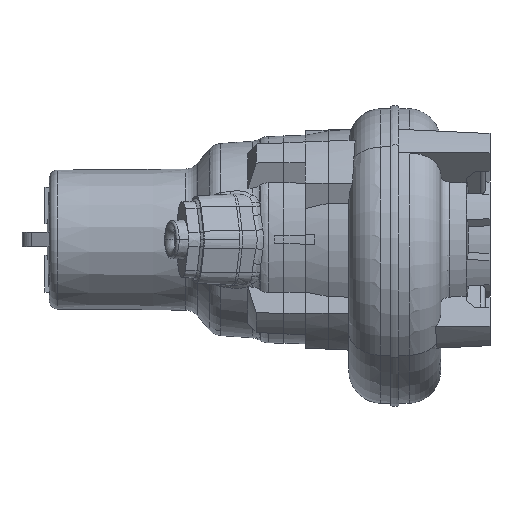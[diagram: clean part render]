
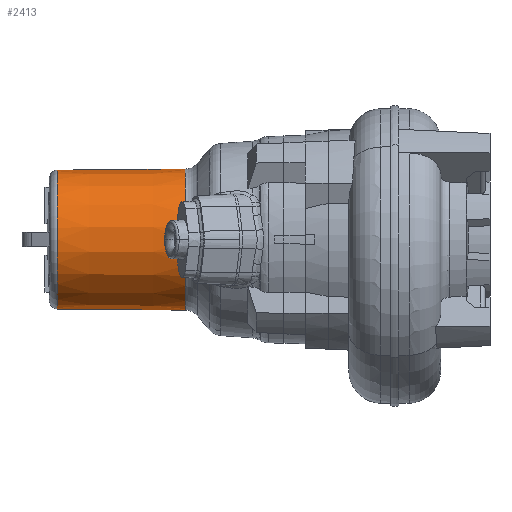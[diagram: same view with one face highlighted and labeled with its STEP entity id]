
A CAD part, left-side view. The second image highlights one B-rep face of the part: STEP entity #2413.
In plain terms, the highlighted conical face has half-angle 0.494 degrees and reference radius 84.5 mm.
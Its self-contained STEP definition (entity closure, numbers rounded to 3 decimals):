
#20 = CARTESIAN_POINT ( 'NONE',  ( -85.897, 123.483, 1.963 ) ) ;
#34 = CIRCLE ( 'NONE', #7975, 84.58 ) ;
#923 = DIRECTION ( 'NONE',  ( 0., 1., 0. ) ) ;
#1108 = AXIS2_PLACEMENT_3D ( 'NONE', #20913, #24912, #26974 ) ;
#1673 = CARTESIAN_POINT ( 'NONE',  ( -85.871, 123.221, -2.923 ) ) ;
#2277 = CIRCLE ( 'NONE', #15054, 85.921 ) ;
#2413 = ADVANCED_FACE ( 'NONE', ( #18559 ), #24038, .T. ) ;
#2439 = VERTEX_POINT ( 'NONE', #20770 ) ;
#2795 = EDGE_CURVE ( 'NONE', #2439, #8359, #16188, .T. ) ;
#3707 = ORIENTED_EDGE ( 'NONE', *, *, #23698, .T. ) ;
#4346 = EDGE_CURVE ( 'NONE', #8359, #10583, #2277, .T. ) ;
#4943 = DIRECTION ( 'NONE',  ( 0., -1., 0.009 ) ) ;
#5325 = ORIENTED_EDGE ( 'NONE', *, *, #24387, .T. ) ;
#5435 = DIRECTION ( 'NONE',  ( 0., 0., -1. ) ) ;
#6334 = CARTESIAN_POINT ( 'NONE',  ( -85.871, 123.221, -2.923 ) ) ;
#7283 = DIRECTION ( 'NONE',  ( 0., 0., -1. ) ) ;
#7844 = ORIENTED_EDGE ( 'NONE', *, *, #17437, .T. ) ;
#7975 = AXIS2_PLACEMENT_3D ( 'NONE', #12313, #18819, #23239 ) ;
#8036 = VECTOR ( 'NONE', #4943, 1000. ) ;
#8359 = VERTEX_POINT ( 'NONE', #18697 ) ;
#8471 = CARTESIAN_POINT ( 'NONE',  ( 0., 123.221, 85.921 ) ) ;
#9549 = DIRECTION ( 'NONE',  ( 0., 1., 0. ) ) ;
#9609 = CARTESIAN_POINT ( 'NONE',  ( -85.871, 123.221, 2.923 ) ) ;
#10583 = VERTEX_POINT ( 'NONE', #6334 ) ;
#10844 = ORIENTED_EDGE ( 'NONE', *, *, #2795, .T. ) ;
#11697 = CARTESIAN_POINT ( 'NONE',  ( 0., 123.221, 0. ) ) ;
#12039 = DIRECTION ( 'NONE',  ( 0., -1., -0.009 ) ) ;
#12122 = B_SPLINE_CURVE_WITH_KNOTS ( 'NONE', 3,
 ( #1673, #14790, #23214, #18375, #21005, #20, #16872, #18937 ),
 .UNSPECIFIED., .F., .F.,
 ( 4, 2, 2, 4 ),
 ( 0., 0.003, 0.004, 0.006 ),
 .UNSPECIFIED. ) ;
#12313 = CARTESIAN_POINT ( 'NONE',  ( 0., 278.764, 0. ) ) ;
#13025 = CARTESIAN_POINT ( 'NONE',  ( 0., 278.764, 84.58 ) ) ;
#13845 = CARTESIAN_POINT ( 'NONE',  ( 0., 123.221, 0. ) ) ;
#14790 = CARTESIAN_POINT ( 'NONE',  ( -85.901, 123.517, -1.97 ) ) ;
#14849 = VERTEX_POINT ( 'NONE', #9609 ) ;
#15054 = AXIS2_PLACEMENT_3D ( 'NONE', #11697, #923, #7283 ) ;
#15284 = CARTESIAN_POINT ( 'NONE',  ( 0., 288., 84.5 ) ) ;
#16188 = LINE ( 'NONE', #18257, #18716 ) ;
#16263 = CIRCLE ( 'NONE', #26398, 85.921 ) ;
#16872 = CARTESIAN_POINT ( 'NONE',  ( -85.886, 123.369, 2.446 ) ) ;
#16947 = ORIENTED_EDGE ( 'NONE', *, *, #4346, .T. ) ;
#17437 = EDGE_CURVE ( 'NONE', #10583, #14849, #12122, .T. ) ;
#17904 = LINE ( 'NONE', #15284, #8036 ) ;
#18257 = CARTESIAN_POINT ( 'NONE',  ( 0., 288., -84.5 ) ) ;
#18375 = CARTESIAN_POINT ( 'NONE',  ( -85.917, 123.675, 0.482 ) ) ;
#18559 = FACE_OUTER_BOUND ( 'NONE', #25275, .T. ) ;
#18697 = CARTESIAN_POINT ( 'NONE',  ( 0., 123.221, -85.921 ) ) ;
#18716 = VECTOR ( 'NONE', #12039, 1000. ) ;
#18819 = DIRECTION ( 'NONE',  ( 0., -1., 0. ) ) ;
#18937 = CARTESIAN_POINT ( 'NONE',  ( -85.871, 123.221, 2.923 ) ) ;
#19330 = VERTEX_POINT ( 'NONE', #8471 ) ;
#20549 = ORIENTED_EDGE ( 'NONE', *, *, #21454, .F. ) ;
#20770 = CARTESIAN_POINT ( 'NONE',  ( 0., 278.764, -84.58 ) ) ;
#20913 = CARTESIAN_POINT ( 'NONE',  ( 0., 288., 0. ) ) ;
#21005 = CARTESIAN_POINT ( 'NONE',  ( -85.913, 123.636, 0.983 ) ) ;
#21454 = EDGE_CURVE ( 'NONE', #24248, #19330, #17904, .T. ) ;
#23214 = CARTESIAN_POINT ( 'NONE',  ( -85.916, 123.673, -1.001 ) ) ;
#23239 = DIRECTION ( 'NONE',  ( 0., 0., 1. ) ) ;
#23698 = EDGE_CURVE ( 'NONE', #24248, #2439, #34, .T. ) ;
#24038 = CONICAL_SURFACE ( 'NONE', #1108, 84.5, 0.009 ) ;
#24248 = VERTEX_POINT ( 'NONE', #13025 ) ;
#24387 = EDGE_CURVE ( 'NONE', #14849, #19330, #16263, .T. ) ;
#24912 = DIRECTION ( 'NONE',  ( 0., -1., 0. ) ) ;
#25275 = EDGE_LOOP ( 'NONE', ( #20549, #3707, #10844, #16947, #7844, #5325 ) ) ;
#26398 = AXIS2_PLACEMENT_3D ( 'NONE', #13845, #9549, #5435 ) ;
#26974 = DIRECTION ( 'NONE',  ( 0., 0., -1. ) ) ;
